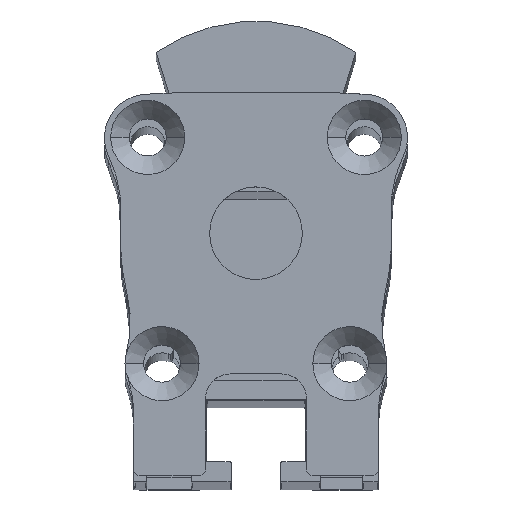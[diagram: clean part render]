
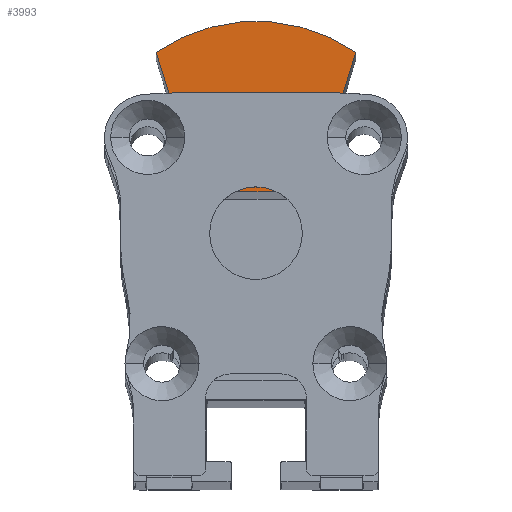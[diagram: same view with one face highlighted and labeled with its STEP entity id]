
A CAD part, top view. The second image highlights one B-rep face of the part: STEP entity #3993.
In plain terms, the highlighted planar face has unit normal (0, 0, 1).
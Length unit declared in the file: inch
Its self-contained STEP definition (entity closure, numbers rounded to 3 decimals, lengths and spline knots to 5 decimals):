
#3993=ADVANCED_FACE('',(#7809),#7810,.T.);
#4001=EDGE_CURVE('',#7813,#7819,#7822,.T.);
#4007=EDGE_CURVE('',#7827,#7819,#7830,.F.);
#4029=EDGE_CURVE('',#7861,#7862,#7863,.F.);
#4035=EDGE_CURVE('',#7869,#7870,#7871,.F.);
#4041=EDGE_CURVE('',#7870,#7861,#7877,.F.);
#4043=EDGE_CURVE('',#7869,#7879,#7880,.F.);
#4047=EDGE_CURVE('',#7813,#7862,#7884,.F.);
#4049=EDGE_CURVE('',#7886,#7887,#7888,.F.);
#4055=EDGE_CURVE('',#7827,#7894,#7895,.F.);
#4059=EDGE_CURVE('',#7894,#7886,#7899,.F.);
#4063=EDGE_CURVE('',#7901,#7887,#7904,.F.);
#4065=EDGE_CURVE('',#7879,#7901,#7906,.F.);
#7809=FACE_OUTER_BOUND('',#18311,.T.);
#7810=PLANE('',#18312);
#7813=VERTEX_POINT('',#18316);
#7819=VERTEX_POINT('',#18326);
#7822=LINE('',#18331,#18332);
#7827=VERTEX_POINT('',#18340);
#7830=LINE('',#18345,#18346);
#7861=VERTEX_POINT('',#18397);
#7862=VERTEX_POINT('',#18398);
#7863=LINE('',#18399,#18400);
#7869=VERTEX_POINT('',#18411);
#7870=VERTEX_POINT('',#18412);
#7871=LINE('',#18413,#18414);
#7877=LINE('',#18425,#18426);
#7879=VERTEX_POINT('',#18429);
#7880=LINE('',#18430,#18431);
#7884=LINE('',#18438,#18439);
#7886=VERTEX_POINT('',#18442);
#7887=VERTEX_POINT('',#18443);
#7888=LINE('',#18444,#18445);
#7894=VERTEX_POINT('',#18456);
#7895=LINE('',#18457,#18458);
#7899=LINE('',#18465,#18466);
#7901=VERTEX_POINT('',#18469);
#7904=LINE('',#18474,#18475);
#7906=CIRCLE('',#18478,0.56299);
#18311=EDGE_LOOP('',(#24020,#24021,#24022,#24023,#24024,#24025,#24026,#24027,#24028,#24029,#24030,#24031));
#18312=AXIS2_PLACEMENT_3D('',#24032,#24033,#24034);
#18316=CARTESIAN_POINT('',(-0.17932,0.15296,2.8469));
#18326=CARTESIAN_POINT('',(0.17932,0.15296,2.8469));
#18331=CARTESIAN_POINT('',(0.,0.15296,2.8469));
#18332=VECTOR('',#24038,1.0);
#18340=CARTESIAN_POINT('',(0.26301,0.4208,2.8469));
#18345=CARTESIAN_POINT('',(0.19145,0.19179,2.8469));
#18346=VECTOR('',#24041,1.0);
#18397=CARTESIAN_POINT('',(-0.21005,0.4208,2.8469));
#18398=CARTESIAN_POINT('',(-0.26301,0.4208,2.8469));
#18399=CARTESIAN_POINT('',(-0.12298,0.4208,2.8469));
#18400=VECTOR('',#24054,1.0);
#18411=CARTESIAN_POINT('',(-0.27532,0.46017,2.8469));
#18412=CARTESIAN_POINT('',(-0.21005,0.46017,2.8469));
#18413=CARTESIAN_POINT('',(-0.12298,0.46017,2.8469));
#18414=VECTOR('',#24057,1.0);
#18425=CARTESIAN_POINT('',(-0.21005,0.35333,2.8469));
#18426=VECTOR('',#24060,1.0);
#18429=CARTESIAN_POINT('',(-0.31832,0.59777,2.8469));
#18430=CARTESIAN_POINT('',(-0.19145,0.19179,2.8469));
#18431=VECTOR('',#24061,1.0);
#18438=CARTESIAN_POINT('',(-0.19145,0.19179,2.8469));
#18439=VECTOR('',#24063,1.0);
#18442=CARTESIAN_POINT('',(0.20856,0.46017,2.8469));
#18443=CARTESIAN_POINT('',(0.27532,0.46017,2.8469));
#18444=CARTESIAN_POINT('',(0.12223,0.46017,2.8469));
#18445=VECTOR('',#24064,1.0);
#18456=CARTESIAN_POINT('',(0.20856,0.4208,2.8469));
#18457=CARTESIAN_POINT('',(0.12223,0.4208,2.8469));
#18458=VECTOR('',#24067,1.0);
#18465=CARTESIAN_POINT('',(0.20856,0.35333,2.8469));
#18466=VECTOR('',#24069,1.0);
#18469=CARTESIAN_POINT('',(0.31832,0.59777,2.8469));
#18474=CARTESIAN_POINT('',(0.19145,0.19179,2.8469));
#18475=VECTOR('',#24071,1.0);
#18478=AXIS2_PLACEMENT_3D('',#24072,#24073,#24074);
#24020=ORIENTED_EDGE('',*,*,#4001,.T.);
#24021=ORIENTED_EDGE('',*,*,#4007,.F.);
#24022=ORIENTED_EDGE('',*,*,#4055,.T.);
#24023=ORIENTED_EDGE('',*,*,#4059,.T.);
#24024=ORIENTED_EDGE('',*,*,#4049,.T.);
#24025=ORIENTED_EDGE('',*,*,#4063,.F.);
#24026=ORIENTED_EDGE('',*,*,#4065,.F.);
#24027=ORIENTED_EDGE('',*,*,#4043,.F.);
#24028=ORIENTED_EDGE('',*,*,#4035,.T.);
#24029=ORIENTED_EDGE('',*,*,#4041,.T.);
#24030=ORIENTED_EDGE('',*,*,#4029,.T.);
#24031=ORIENTED_EDGE('',*,*,#4047,.F.);
#24032=CARTESIAN_POINT('',(0.,0.26619,2.8469));
#24033=DIRECTION('',(0.,0.,1.0));
#24034=DIRECTION('',(1.0,0.0,0.));
#24038=DIRECTION('',(1.0,0.0,0.));
#24041=DIRECTION('',(0.298,0.954,0.));
#24054=DIRECTION('',(1.0,0.0,0.));
#24057=DIRECTION('',(-1.0,0.0,0.));
#24060=DIRECTION('',(-0.0,1.0,0.));
#24061=DIRECTION('',(0.298,-0.954,0.));
#24063=DIRECTION('',(0.298,-0.954,0.));
#24064=DIRECTION('',(-1.0,0.0,0.));
#24067=DIRECTION('',(1.0,0.0,0.));
#24069=DIRECTION('',(-0.0,-1.0,0.));
#24071=DIRECTION('',(0.298,0.954,0.));
#24072=CARTESIAN_POINT('',(0.,0.13341,2.8469));
#24073=DIRECTION('',(0.,0.,1.0));
#24074=DIRECTION('',(1.0,0.,0.));
